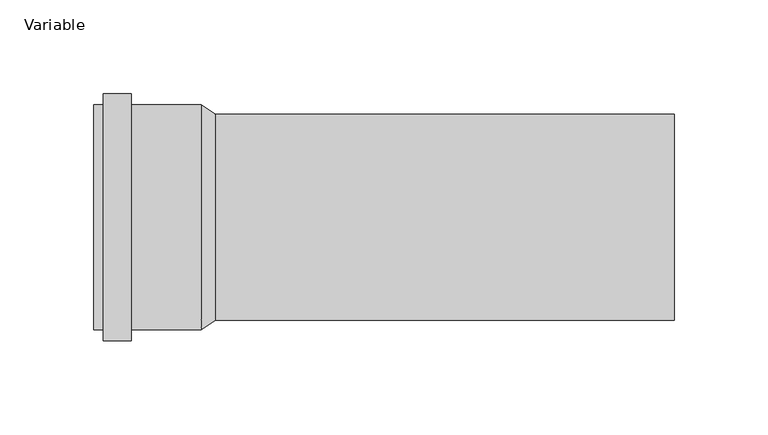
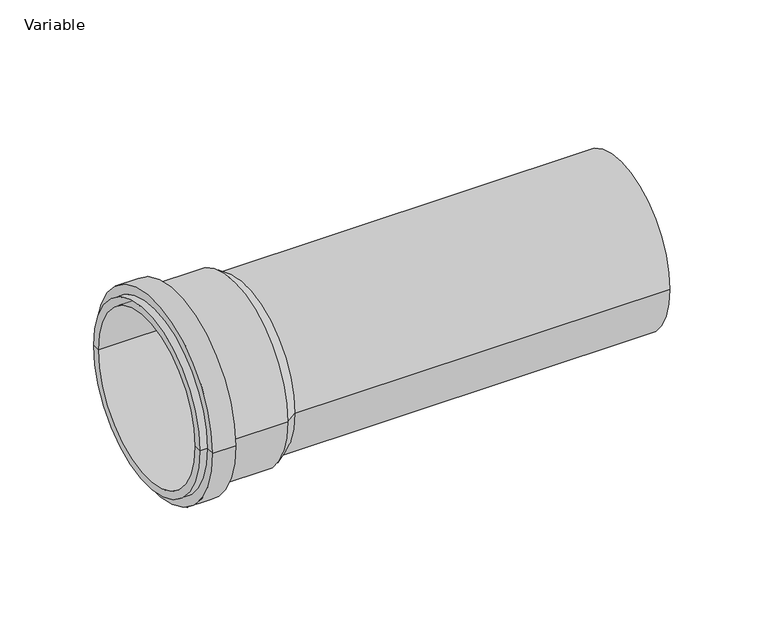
"""IFC4 building model written with IfcOpenShell, lengths in millimetres: pipe fitting geometry, AliaxisFR_Friaphon_LongCoupling_FR : Variable."""

from ifc_helpers import new_model, si_unit, point, frame, origin, origin_2d, place, context, project, spatial, polyline, circle_curve, trimmed, segment, composite_curve, outline, extrude, source, transform, mapped, element, save
from ifc_brep_helpers import plane_surface, cylinder_surface, revolved_surface, advanced_brep


def variable_f2b35cbf(model_context):
    return source(origin(), model_context, "Body", "SolidModel", [
        advanced_brep(
        [(-185.0, 60.0, 0.0), (-185.0, -60.0, 0.0), (-185.0, -55.0, 0.0), (-185.0, 55.0, 0.0), (-165.0, 66.0, 0.0), (-165.0, -66.0, 0.0), (-180.0, -66.0, 0.0), (-180.0, 66.0, 0.0), (-165.0, 60.0, 0.0), (-165.0, -60.0, 0.0), (-127.5, 60.0, 0.0), (-127.5, -60.0, 0.0), (-120.0, -55.0, 0.0), (-120.0, 55.0, 0.0), (-180.0, 60.0, 0.0), (-180.0, -60.0, 0.0)],
        [
            (0, 1, circle_curve(frame((-185.0, 0.0, 0.0), z_axis=(-1.0, 0.0, 0.0), x_axis=(0.0, -1.0, 0.0)), 60.0)),
            (1, 2),
            (2, 3, circle_curve(frame((-185.0, 0.0, 0.0), z_axis=(1.0, 0.0, 0.0), x_axis=(0.0, -1.0, 0.0)), 55.0)),
            (3, 0),
            (1, 0, circle_curve(frame((-185.0, 0.0, 0.0), z_axis=(-1.0, 0.0, 0.0), x_axis=(0.0, -1.0, 0.0)), 60.0)),
            (3, 2, circle_curve(frame((-185.0, 0.0, 0.0), z_axis=(1.0, 0.0, 0.0), x_axis=(0.0, -1.0, 0.0)), 55.0)),
            (4, 5, circle_curve(frame((-165.0, 0.0, 0.0), z_axis=(-1.0, 0.0, 0.0), x_axis=(0.0, -1.0, 0.0)), 66.0)),
            (5, 6),
            (6, 7, circle_curve(frame((-180.0, 0.0, 0.0), z_axis=(1.0, 0.0, 0.0), x_axis=(0.0, -1.0, 0.0)), 66.0)),
            (7, 4),
            (5, 4, circle_curve(frame((-165.0, 0.0, 0.0), z_axis=(-1.0, 0.0, 0.0), x_axis=(0.0, -1.0, 0.0)), 66.0)),
            (7, 6, circle_curve(frame((-180.0, 0.0, 0.0), z_axis=(1.0, 0.0, 0.0), x_axis=(0.0, -1.0, 0.0)), 66.0)),
            (8, 9, circle_curve(frame((-165.0, 0.0, 0.0), z_axis=(-1.0, 0.0, 0.0), x_axis=(0.0, -1.0, 0.0)), 60.0)),
            (9, 5),
            (4, 8),
            (9, 8, circle_curve(frame((-165.0, 0.0, 0.0), z_axis=(-1.0, 0.0, 0.0), x_axis=(0.0, -1.0, 0.0)), 60.0)),
            (10, 11, circle_curve(frame((-127.5, 0.0, 0.0), z_axis=(-1.0, 0.0, 0.0), x_axis=(0.0, -1.0, 0.0)), 60.0)),
            (11, 9),
            (8, 10),
            (11, 10, circle_curve(frame((-127.5, 0.0, 0.0), z_axis=(-1.0, 0.0, 0.0), x_axis=(0.0, -1.0, 0.0)), 60.0)),
            (2, 12),
            (12, 13, circle_curve(frame((-120.0, 0.0, 0.0), z_axis=(1.0, 0.0, 0.0), x_axis=(0.0, -1.0, 0.0)), 55.0)),
            (13, 3),
            (13, 12, circle_curve(frame((-120.0, 0.0, 0.0), z_axis=(1.0, 0.0, 0.0), x_axis=(0.0, -1.0, 0.0)), 55.0)),
            (12, 11),
            (10, 13),
            (14, 15, circle_curve(frame((-180.0, 0.0, 0.0), z_axis=(-1.0, 0.0, 0.0), x_axis=(0.0, -1.0, 0.0)), 60.0)),
            (15, 1),
            (0, 14),
            (15, 14, circle_curve(frame((-180.0, 0.0, 0.0), z_axis=(-1.0, 0.0, 0.0), x_axis=(0.0, -1.0, 0.0)), 60.0)),
            (6, 15),
            (14, 7),
        ],
        [
            plane_surface(frame((-185.0, 0.0, 0.0), z_axis=(-1.0, 0.0, 0.0), x_axis=(0.0, -1.0, 0.0))),
            cylinder_surface(frame((-120.0, 0.0, 0.0), z_axis=(1.0, 0.0, 0.0), x_axis=(0.0, -1.0, 0.0)), 66.0),
            plane_surface(frame((-165.0, 0.0, 0.0), z_axis=(1.0, 0.0, 0.0), x_axis=(0.0, -1.0, 0.0))),
            cylinder_surface(frame((-120.0, 0.0, 0.0), z_axis=(1.0, 0.0, 0.0), x_axis=(0.0, -1.0, 0.0)), 60.0),
            revolved_surface(polyline([(-120.0, -55.0, 0.0), (-185.0, -55.0, 0.0)]), (-120.0, 0.0, 0.0), (1.0, 0.0, 0.0)),
            revolved_surface(polyline([(-127.5, -60.0, 0.0), (-120.0, -55.0, 0.0)]), (-120.0, 0.0, 0.0), (1.0, 0.0, 0.0)),
            plane_surface(frame((-180.0, 0.0, 0.0), z_axis=(-1.0, 0.0, 0.0), x_axis=(0.0, -1.0, 0.0))),
        ],
        [
            (0, [[1, 2, 3, 4]]),
            (0, [[5, -4, 6, -2]]),
            (1, [[7, 8, 9, 10]]),
            (1, [[11, -10, 12, -8]]),
            (2, [[13, 14, -7, 15]]),
            (2, [[16, -15, -11, -14]]),
            (3, [[17, 18, -13, 19]]),
            (3, [[20, -19, -16, -18]]),
            (4, [[-3, 21, 22, 23]]),
            (4, [[-6, -23, 24, -21]]),
            (5, [[-22, 25, -17, 26]]),
            (5, [[-24, -26, -20, -25]]),
            (3, [[27, 28, -1, 29]]),
            (3, [[30, -29, -5, -28]]),
            (6, [[-9, 31, -27, 32]]),
            (6, [[-12, -32, -30, -31]]),
        ],
    ),
        extrude(outline(composite_curve([segment(trimmed(circle_curve(origin_2d(), 55.0), [point((-55.0, 0.0))], [point((55.0, 0.0))], False, "CARTESIAN"), True, "CONTINUOUS"), segment(trimmed(circle_curve(origin_2d(), 55.0), [point((55.0, 0.0))], [point((-55.0, 0.0))], False, "CARTESIAN"), True, "CONTINUOUS")], self_intersect=False)), frame((-125.0, 0.0, 0.0), z_axis=(1.0, 0.0, 0.0), x_axis=(0.0, 1.0, 0.0)), (0.0, 0.0, 1.0), 250.0),
    ])


if __name__ == "__main__":
    model = new_model("IFC4")
    model_context = context("Model", 3, world=origin())
    ifc_project = project(units=[si_unit("LENGTHUNIT", "METRE", prefix="MILLI")], contexts=[model_context])
    site = spatial("IfcSite", under=ifc_project)
    building = spatial("IfcBuilding", under=site)
    placement = place(None, origin())
    variable_shape = variable_f2b35cbf(model_context)
    element("IfcPipeFitting", 1, ObjectType="AliaxisFR_Friaphon_LongCoupling_FR : Variable", at=placement, inside=building, context=model_context, shape_type="MappedRepresentation", body=[
        mapped(variable_shape, transform((0.0, 0.0, 0.0), x_axis=(1.0, 0.0, 0.0), y_axis=(0.0, 1.0, 0.0), z_axis=(0.0, 0.0, 1.0))),
    ])
    save(model, "model.ifc")
